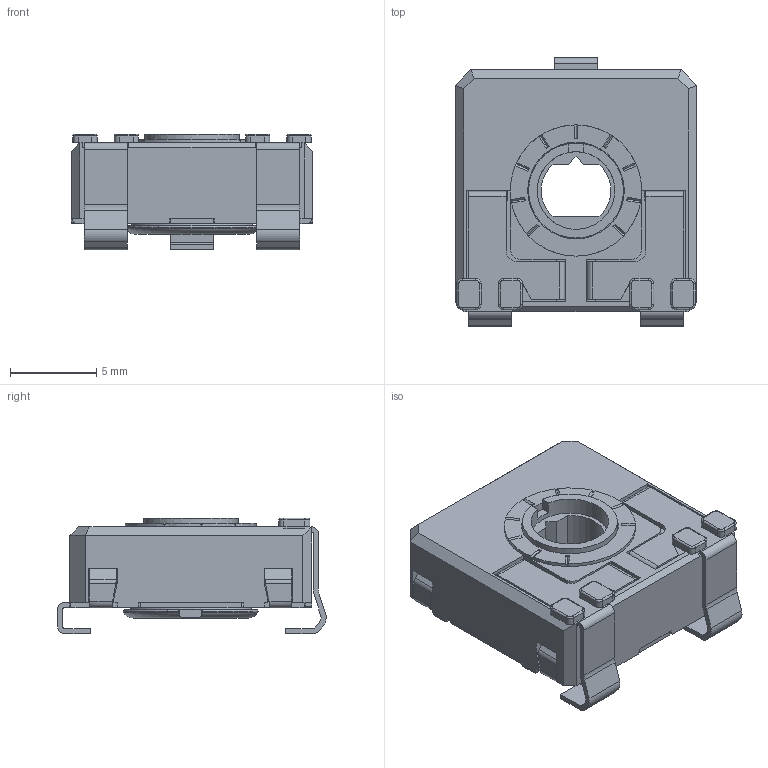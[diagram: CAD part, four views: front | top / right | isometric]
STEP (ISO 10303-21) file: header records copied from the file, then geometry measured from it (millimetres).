
FILE_DESCRIPTION(/* description */ (''),/* implementation_level */ '2;1');
FILE_NAME(/* name */ '\\SERVERACP\intercambio\Ignacio Santa Cecilia\Nueva WEB 2025\CA14 - CE14\CA14KVSMD.stp',/* time_stamp */ '2025-07-01T12:33:17+02:00',/* author */ ('CEM'),/* organization */ (''),/* preprocessor_version */ 'ST-DEVELOPER v17',/* originating_system */ 'Autodesk Inventor 2018',/* authorisation */ '');
FILE_SCHEMA (('AUTOMOTIVE_DESIGN { 1 0 10303 214 3 1 1 }'));
Length unit declared in the file: millimetre
Products named in the file (1): CARCASA CA14 PGA
Bounding box: 14 x 15.55 x 6.7 mm (x, y, z)
Volume: 538 mm3; surface area: 1474.6 mm2
Topology: 1 solids, 1 shells, 554 faces, 1572 edges, 1005 vertices
Faces by surface type: plane 412, cylinder 105, torus 23, bspline 8, cone 6
Full cylindrical faces by diameter (mm): 4.5 x1, 5.5 x1, 5.6 x1, 5.752 x1, 6.8 x1, 7.6 x1
Entity records: 18213 total; most frequent: CARTESIAN_POINT 3429, ORIENTED_EDGE 3144, DIRECTION 2916, EDGE_CURVE 1572, LINE 1232, VECTOR 1232, VERTEX_POINT 1005, AXIS2_PLACEMENT_3D 842
